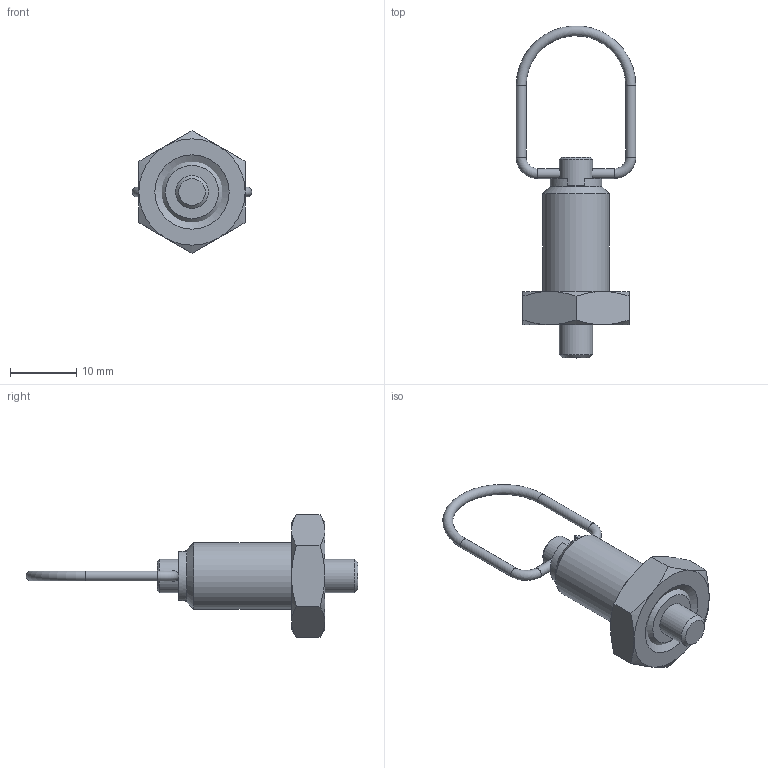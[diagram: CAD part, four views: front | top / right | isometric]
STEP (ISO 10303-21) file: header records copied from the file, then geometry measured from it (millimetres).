
FILE_DESCRIPTION( ( 'STEP AP203' ), '1' );
FILE_NAME( 'C:/Temp/Ganter_Step_05_03_2020/data/3_1/gn_413/gn413_ni/gn413_ni_ak/Stainless Steel Indexing plunger GN 413-5-M10-AK-NI (deactivated-0).stp', '2020-03-12T09:11:08', ( 'License CC BY-ND 4.0' ), ( 'CADENAS' ), ' ', 'PARTsolutions', ' ' );
FILE_SCHEMA( ( 'CONFIG_CONTROL_DESIGN' ) );
Length unit declared in the file: millimetre
Products named in the file (4): Stainless Steel Indexing plunger GN 413-5-M10-AK-NI (deactivated-0); _Edelstahl-Rastbolzen GN 413-5-M10-AK-NI (unbetaetigt)_f; _Edelstahl-Rastbolzen GN 413-5-M10-AK-NI (unbetaetigt)_b; _Edelstahl-Rastbolzen GN 413-5-M10-AK-NI (unbetaetigt)_km
Assembly tree (3 placements, depth 2):
  Stainless Steel Indexing plunger GN 413-5-M10-AK-NI (deactivated-0)
    _Edelstahl-Rastbolzen GN 413-5-M10-AK-NI (unbetaetigt)_f
    _Edelstahl-Rastbolzen GN 413-5-M10-AK-NI (unbetaetigt)_b
    _Edelstahl-Rastbolzen GN 413-5-M10-AK-NI (unbetaetigt)_km
Bounding box: 18 x 49.98 x 18.48 mm (x, y, z)
Volume: 2616.7 mm3; surface area: 2683.3 mm2
Topology: 3 solids, 3 shells, 61 faces, 130 edges, 78 vertices
Faces by surface type: plane 23, cone 21, cylinder 14, torus 3
Full cylindrical faces by diameter (mm): 1.5 x4, 5 x4, 5.3 x1, 6.5 x2, 7.8 x1, 8.376 x1, 10 x1
Entity records: 1735 total; most frequent: CARTESIAN_POINT 423, DIRECTION 254, ORIENTED_EDGE 198, AXIS2_PLACEMENT_3D 116, EDGE_CURVE 99, EDGE_LOOP 96, FACE_OUTER_BOUND 78, VERTEX_POINT 73
